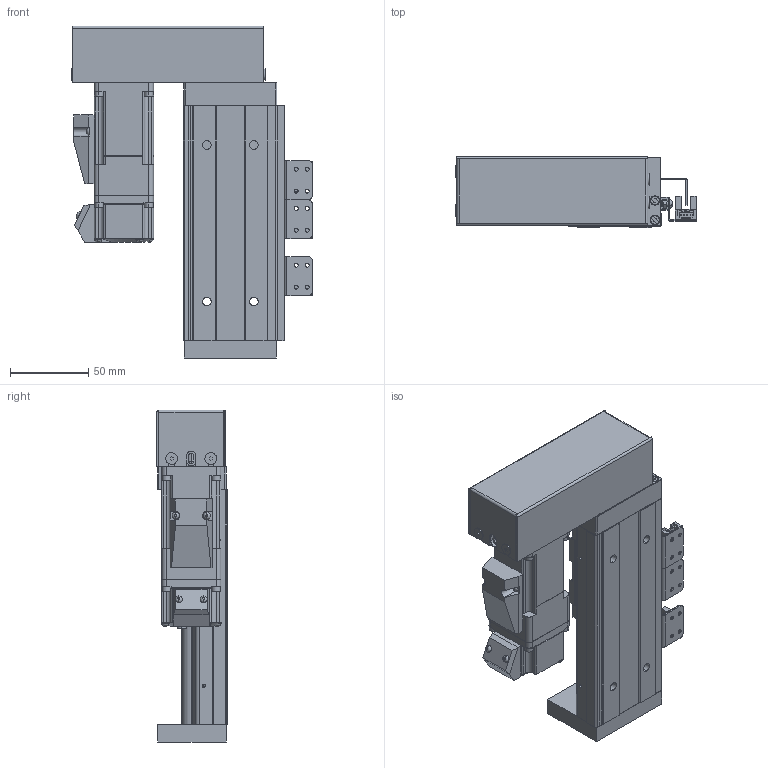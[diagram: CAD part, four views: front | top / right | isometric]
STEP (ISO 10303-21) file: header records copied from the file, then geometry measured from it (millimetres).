
FILE_DESCRIPTION (( 'STEP AP203' ), '1' );
FILE_NAME ('KH60D10C-150A1-H2RS1.STEP', '2022-06-08T06:10:35', ( 'CXY' ), ( 'BT' ), 'SwSTEP 2.0', 'SolidWorks 2016', '' );
FILE_SCHEMA (( 'CONFIG_CONTROL_DESIGN' ));
Length unit declared in the file: millimetre
Products named in the file (22): KH86-08-SX674; 晦埴芛M3X6蹟隊; KK60-02-04; 侂狟萇儂P10B; 内六角圆柱头螺钉M3×10; PM-Y65; 216々湍; KH60D10C-150A1-H2RS1; KK60-02-01-H0_KK60-02-01-H0&H1; 内六角圆柱头螺钉M3×18; B-KK60-A1-F0C; KK60-08-01; KK60-02-02; KK60-01-02-XXXX_KK60-01-02-150; 綴釱; 鞠褒蹟譫M3; KH60-500; 囀鞠褒す埴芛蹟隊M3℅5; KH60-02-0000; 錨璃2; KK60-02-03; KK60-04-07G
Assembly tree (36 placements, depth 3):
  KH60D10C-150A1-H2RS1
    KH60-500
    B-KK60-A1-F0C
      錨璃2
    綴釱
    KH86-08-SX674  x3
      KK60-08-01
      囀鞠褒す埴芛蹟隊M3℅5
      鞠褒蹟譫M3
    KK60-01-02-XXXX_KK60-01-02-150
    KH60-02-0000
      KK60-02-01-H0_KK60-02-01-H0&H1
      KK60-02-02
      KK60-02-03
      内六角圆柱头螺钉M3×18  x4
      侂狟萇儂P10B
      KK60-02-04
      216々湍
      内六角圆柱头螺钉M3×10  x4
      晦埴芛M3X6蹟隊  x4
    KK60-04-07G
    PM-Y65  x3
Bounding box: 153.7 x 45 x 212 mm (x, y, z)
Volume: 461412.2 mm3; surface area: 168160.6 mm2
Topology: 42 solids, 42 shells, 2458 faces, 6406 edges, 4131 vertices
Faces by surface type: plane 1323, cylinder 540, bspline 280, cone 241, torus 62, sphere 12
Entity records: 60138 total; most frequent: CARTESIAN_POINT 14836, ORIENTED_EDGE 9306, DIRECTION 7988, EDGE_CURVE 4653, VERTEX_POINT 3058, LINE 3000, VECTOR 3000, AXIS2_PLACEMENT_3D 2494
